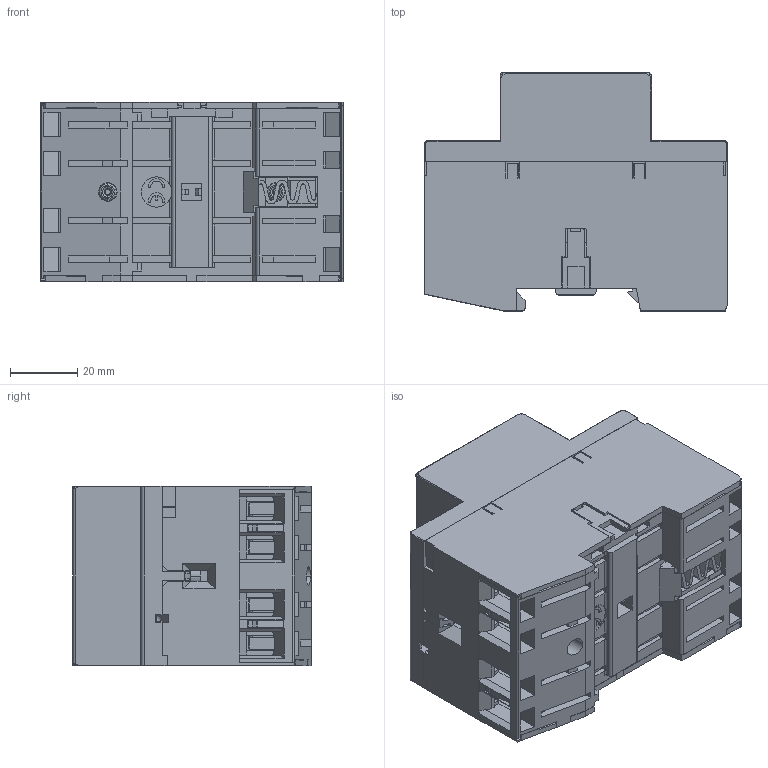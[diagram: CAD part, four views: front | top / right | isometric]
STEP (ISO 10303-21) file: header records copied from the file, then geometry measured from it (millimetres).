
FILE_DESCRIPTION (( 'STEP AP214' ), '1' );
FILE_NAME ('RSI_40_63.step', '2011-08-12T09:21:42', ( 'Radek Veselý' ), ( 'Siemens and Partners' ), 'SwSTEP 2.0', 'SolidWorks 2006303', '' );
FILE_SCHEMA (( 'AUTOMOTIVE_DESIGN' ));
Length unit declared in the file: millimetre
Products named in the file (1): RSI_40_63
Bounding box: 90.08 x 70.8 x 53.5 mm (x, y, z)
Volume: 111482.5 mm3; surface area: 112039.6 mm2
Topology: 17 solids, 18 shells, 3269 faces, 9055 edges, 5821 vertices
Faces by surface type: plane 2571, cylinder 444, torus 106, cone 104, bspline 40, sphere 4
Entity records: 141260 total; most frequent: CARTESIAN_POINT 21679, ORIENTED_EDGE 18094, DIRECTION 16312, EDGE_CURVE 9047, VECTOR 7412, LINE 7412, VERTEX_POINT 5821, AXIS2_PLACEMENT_3D 4450
